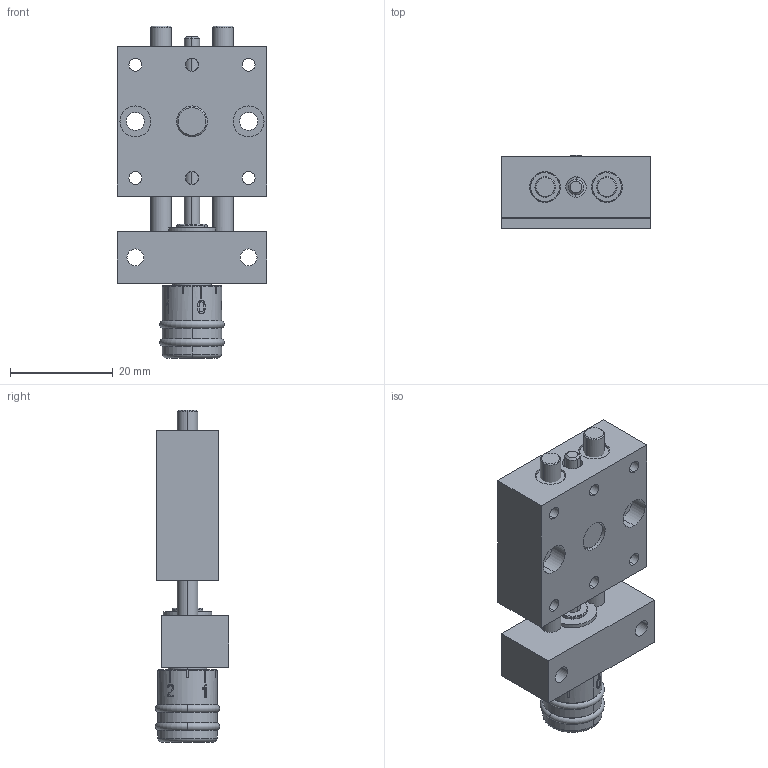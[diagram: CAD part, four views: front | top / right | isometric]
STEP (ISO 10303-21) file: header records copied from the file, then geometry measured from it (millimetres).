
FILE_DESCRIPTION (( 'STEP AP203' ), '1' );
FILE_NAME ('PT1104-SK-Positioniertisch.STEP', '2016-01-15T17:21:19', ( '' ), ( '' ), 'SwSTEP 2.0', 'SolidWorks 2014', '' );
FILE_SCHEMA (( 'CONFIG_CONTROL_DESIGN' ));
Length unit declared in the file: millimetre
Products named in the file (3): PT1104-SK-Positioniertisch; PT1104-000-01-Festteil; PT04-000-02-Schlitten-komplett_n_Standard
Assembly tree (2 placements, depth 2):
  PT1104-SK-Positioniertisch
    PT1104-000-01-Festteil
    PT04-000-02-Schlitten-komplett_n_Standard
Bounding box: 29 x 14.25 x 64.54 mm (x, y, z)
Volume: 13940 mm3; surface area: 9795.8 mm2
Topology: 2 solids, 4 shells, 418 faces, 1021 edges, 652 vertices
Faces by surface type: cylinder 150, plane 129, cone 78, bspline 41, torus 18, sphere 2
Entity records: 18061 total; most frequent: CARTESIAN_POINT 7866, DIRECTION 2099, ORIENTED_EDGE 2042, EDGE_CURVE 1021, AXIS2_PLACEMENT_3D 862, VERTEX_POINT 652, EDGE_LOOP 493, CIRCLE 480
